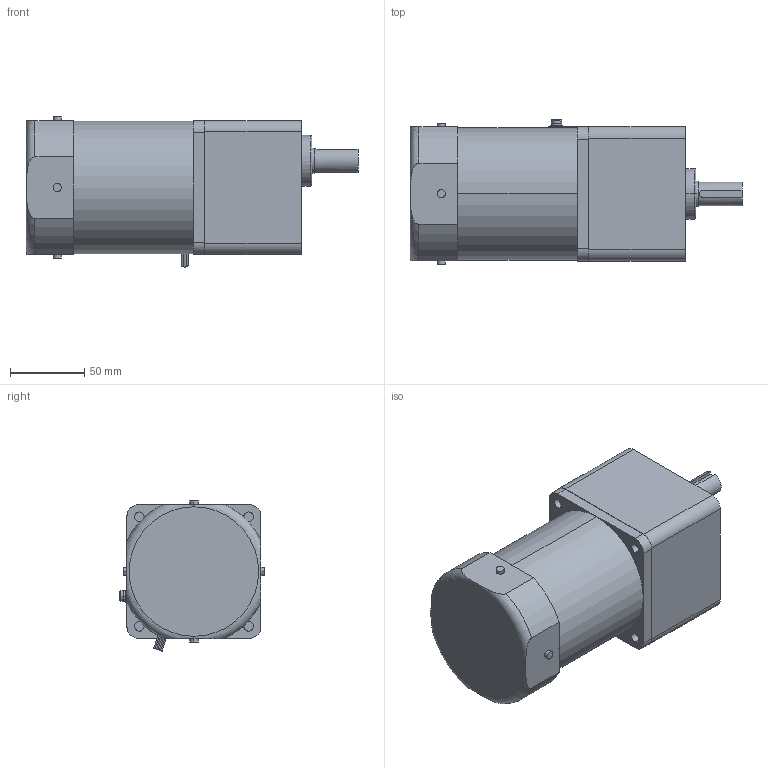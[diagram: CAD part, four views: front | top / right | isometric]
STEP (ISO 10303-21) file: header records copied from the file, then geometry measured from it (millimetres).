
FILE_DESCRIPTION(('starvars output'),'2;1');
FILE_NAME('5IK60GE-AW2U _ 5GE6SA.stp','10:45:05 2015/05/11',( 'Thomas Industrial Network Germany GmbH'),( 'Thomas Industrial Network Germany GmbH'),'unknown preprocess','ACIS' ,'unknown authorization');
FILE_SCHEMA(('AUTOMOTIVE_DESIGN_CC2 {UNKNOWN IMPLEMENTATION LEVEL}'));
Length unit declared in the file: millimetre
Products named in the file (1): PRODUCT_ID_1615
Bounding box: 223 x 97.4 x 100.82 mm (x, y, z)
Volume: 1308744.5 mm3; surface area: 84904.6 mm2
Topology: 1 solids, 1 shells, 144 faces, 327 edges, 211 vertices
Faces by surface type: cylinder 72, plane 60, torus 8, cone 4
Entity records: 5017 total; most frequent: CARTESIAN_POINT 877, ORIENTED_EDGE 650, DIRECTION 536, EDGE_CURVE 325, VERTEX_POINT 211, AXIS2_PLACEMENT_3D 198, EDGE_LOOP 172, FACE_BOUND 172
